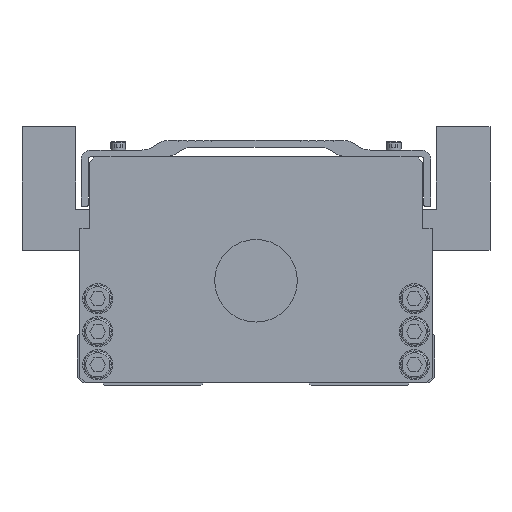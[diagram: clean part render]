
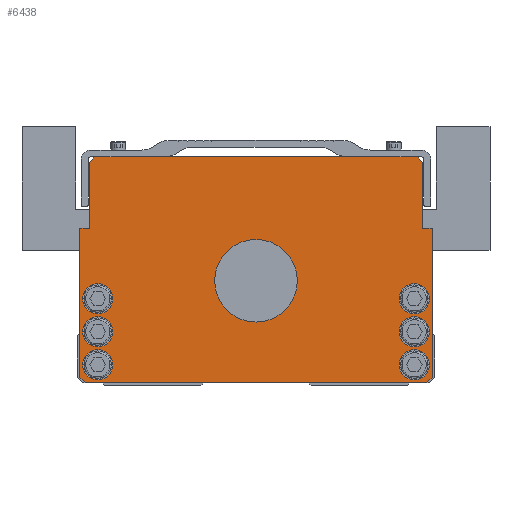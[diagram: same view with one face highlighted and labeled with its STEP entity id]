
A CAD part, front view. The second image highlights one B-rep face of the part: STEP entity #6438.
In plain terms, the highlighted planar face has unit normal (0, -1, 0).
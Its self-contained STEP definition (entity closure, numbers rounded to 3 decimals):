
#6342=VERTEX_POINT('',#18929);
#6352=EDGE_CURVE('',#18652,#12292,#18943,.T.);
#6438=ADVANCED_FACE('',(#19039,#19040,#19041,#19042,#19043,#19044,#19045,#19046),#19047,.T.);
#6466=VERTEX_POINT('',#19080);
#6550=EDGE_CURVE('',#10788,#17178,#19173,.T.);
#6776=EDGE_CURVE('',#6978,#9492,#19418,.T.);
#6978=VERTEX_POINT('',#19647);
#7292=EDGE_CURVE('',#13262,#15492,#19996,.T.);
#8096=EDGE_CURVE('',#18088,#14904,#20905,.T.);
#8110=EDGE_CURVE('',#15242,#11264,#20920,.T.);
#8536=EDGE_CURVE('',#6466,#15300,#21395,.T.);
#9076=VERTEX_POINT('',#22014);
#9446=EDGE_CURVE('',#17178,#11790,#22424,.T.);
#9492=VERTEX_POINT('',#22481);
#9618=EDGE_CURVE('',#11790,#18652,#22624,.T.);
#9684=VERTEX_POINT('',#22697);
#9744=EDGE_CURVE('',#13874,#10788,#22763,.T.);
#10228=EDGE_CURVE('',#6342,#17916,#23302,.T.);
#10788=VERTEX_POINT('',#23915);
#11184=VERTEX_POINT('',#24346);
#11222=EDGE_CURVE('',#9076,#12260,#24387,.T.);
#11264=VERTEX_POINT('',#24432);
#11352=VERTEX_POINT('',#24528);
#11790=VERTEX_POINT('',#25011);
#11862=VERTEX_POINT('',#25093);
#12024=EDGE_CURVE('',#16478,#11862,#25270,.T.);
#12114=EDGE_CURVE('',#17916,#6342,#25370,.T.);
#12260=VERTEX_POINT('',#25534);
#12292=VERTEX_POINT('',#25570);
#12310=EDGE_CURVE('',#9684,#15928,#25588,.T.);
#13262=VERTEX_POINT('',#26627);
#13682=EDGE_CURVE('',#15300,#6466,#27089,.T.);
#13874=VERTEX_POINT('',#27300);
#14548=EDGE_CURVE('',#15042,#11352,#28043,.T.);
#14762=EDGE_CURVE('',#11264,#15242,#28284,.T.);
#14904=VERTEX_POINT('',#28441);
#15042=VERTEX_POINT('',#28597);
#15242=VERTEX_POINT('',#28818);
#15300=VERTEX_POINT('',#28882);
#15454=EDGE_CURVE('',#15492,#13262,#29058,.T.);
#15492=VERTEX_POINT('',#29099);
#15928=VERTEX_POINT('',#29587);
#16304=EDGE_CURVE('',#14904,#18088,#30012,.T.);
#16356=EDGE_CURVE('',#18854,#6978,#30069,.T.);
#16478=VERTEX_POINT('',#30203);
#16632=EDGE_CURVE('',#11352,#15042,#30370,.T.);
#16850=EDGE_CURVE('',#11862,#9076,#30618,.T.);
#17178=VERTEX_POINT('',#30977);
#17498=EDGE_CURVE('',#15928,#9684,#31344,.T.);
#17788=EDGE_CURVE('',#9492,#16478,#31659,.T.);
#17916=VERTEX_POINT('',#31807);
#18088=VERTEX_POINT('',#32004);
#18482=EDGE_CURVE('',#12260,#11184,#32439,.T.);
#18652=VERTEX_POINT('',#32631);
#18782=EDGE_CURVE('',#12292,#18854,#32770,.T.);
#18784=EDGE_CURVE('',#11184,#13874,#32772,.T.);
#18854=VERTEX_POINT('',#32858);
#18929=CARTESIAN_POINT('',(-52.0,0.0,7.5));
#18943=LINE('',#32964,#32965);
#19039=FACE_BOUND('',#33098,.T.);
#19040=FACE_BOUND('',#33099,.T.);
#19041=FACE_BOUND('',#33100,.T.);
#19042=FACE_BOUND('',#33101,.T.);
#19043=FACE_BOUND('',#33102,.T.);
#19044=FACE_BOUND('',#33103,.T.);
#19045=FACE_BOUND('',#33104,.T.);
#19046=FACE_OUTER_BOUND('',#33105,.T.);
#19047=PLANE('',#33106);
#19080=CARTESIAN_POINT('',(-52.0,0.0,31.5));
#19173=LINE('',#33276,#33277);
#19418=LINE('',#33642,#33643);
#19647=CARTESIAN_POINT('',(60.5,0.0,57.0));
#19996=CIRCLE('',#34451,5.5);
#20905=CIRCLE('',#35723,5.5);
#20920=CIRCLE('',#35741,15.0);
#21395=CIRCLE('',#36374,5.5);
#22014=CARTESIAN_POINT('',(-62.0,0.0,1.0));
#22424=LINE('',#37792,#37793);
#22481=CARTESIAN_POINT('',(64.0,0.0,57.0));
#22624=LINE('',#38062,#38063);
#22697=CARTESIAN_POINT('',(-63.0,0.0,19.5));
#22763=LINE('',#38259,#38260);
#23302=CIRCLE('',#38996,5.5);
#23915=CARTESIAN_POINT('',(-60.5,0.0,81.0));
#24346=CARTESIAN_POINT('',(-64.0,0.0,57.0));
#24387=LINE('',#40531,#40532);
#24432=CARTESIAN_POINT('',(15.0,0.0,38.0));
#24528=CARTESIAN_POINT('',(52.0,0.0,19.5));
#25011=CARTESIAN_POINT('',(-33.25,0.0,83.0));
#25093=CARTESIAN_POINT('',(62.0,0.0,1.0));
#25270=LINE('',#41777,#41778);
#25370=CIRCLE('',#41912,5.5);
#25534=CARTESIAN_POINT('',(-64.0,0.0,3.0));
#25570=CARTESIAN_POINT('',(58.5,0.0,83.0));
#25588=CIRCLE('',#42215,5.5);
#26627=CARTESIAN_POINT('',(52.0,0.0,7.5));
#27089=CIRCLE('',#44319,5.5);
#27300=CARTESIAN_POINT('',(-60.5,0.0,57.0));
#28043=CIRCLE('',#45621,5.5);
#28284=CIRCLE('',#45952,15.0);
#28441=CARTESIAN_POINT('',(63.0,0.0,31.5));
#28597=CARTESIAN_POINT('',(63.0,0.0,19.5));
#28818=CARTESIAN_POINT('',(-15.0,0.0,38.0));
#28882=CARTESIAN_POINT('',(-63.0,0.0,31.5));
#29058=CIRCLE('',#47012,5.5);
#29099=CARTESIAN_POINT('',(63.0,0.0,7.5));
#29587=CARTESIAN_POINT('',(-52.0,0.0,19.5));
#30012=CIRCLE('',#48313,5.5);
#30069=LINE('',#48392,#48393);
#30203=CARTESIAN_POINT('',(64.0,0.0,3.0));
#30370=CIRCLE('',#48799,5.5);
#30618=LINE('',#49142,#49143);
#30977=CARTESIAN_POINT('',(-58.5,0.0,83.0));
#31344=CIRCLE('',#50148,5.5);
#31659=LINE('',#50595,#50596);
#31807=CARTESIAN_POINT('',(-63.0,0.0,7.5));
#32004=CARTESIAN_POINT('',(52.0,0.0,31.5));
#32439=LINE('',#51642,#51643);
#32631=CARTESIAN_POINT('',(33.25,0.0,83.0));
#32770=LINE('',#52101,#52102);
#32772=LINE('',#52105,#52106);
#32858=CARTESIAN_POINT('',(60.5,0.0,81.0));
#32964=CARTESIAN_POINT('',(58.5,0.0,83.0));
#32965=VECTOR('',#52316,1.0);
#33098=EDGE_LOOP('',(#52440,#52441));
#33099=EDGE_LOOP('',(#52442,#52443));
#33100=EDGE_LOOP('',(#52444,#52445));
#33101=EDGE_LOOP('',(#52446,#52447));
#33102=EDGE_LOOP('',(#52448,#52449));
#33103=EDGE_LOOP('',(#52450,#52451));
#33104=EDGE_LOOP('',(#52452,#52453));
#33105=EDGE_LOOP('',(#52454,#52455,#52456,#52457,#52458,#52459,#52460,#52461,#52462,#52463,#52464,#52465,#52466,#52467));
#33106=AXIS2_PLACEMENT_3D('',#52468,#52469,#52470);
#33276=CARTESIAN_POINT('',(-58.5,0.0,83.0));
#33277=VECTOR('',#52611,1.);
#33642=CARTESIAN_POINT('',(64.0,0.0,57.0));
#33643=VECTOR('',#52881,1.0);
#34451=AXIS2_PLACEMENT_3D('',#53553,#53554,#53555);
#35723=AXIS2_PLACEMENT_3D('',#54712,#54713,#54714);
#35741=AXIS2_PLACEMENT_3D('',#54729,#54730,#54731);
#36374=AXIS2_PLACEMENT_3D('',#55297,#55298,#55299);
#37792=CARTESIAN_POINT('',(58.5,0.0,83.0));
#37793=VECTOR('',#56503,1.0);
#38062=CARTESIAN_POINT('',(58.5,0.0,83.0));
#38063=VECTOR('',#56776,1.0);
#38259=CARTESIAN_POINT('',(-60.5,0.0,81.0));
#38260=VECTOR('',#56927,1.0);
#38996=AXIS2_PLACEMENT_3D('',#57526,#57527,#57528);
#40531=CARTESIAN_POINT('',(-64.0,0.0,3.0));
#40532=VECTOR('',#58657,1.);
#41777=CARTESIAN_POINT('',(62.0,0.0,1.0));
#41778=VECTOR('',#59599,1.);
#41912=AXIS2_PLACEMENT_3D('',#59705,#59706,#59707);
#42215=AXIS2_PLACEMENT_3D('',#59956,#59957,#59958);
#44319=AXIS2_PLACEMENT_3D('',#61556,#61557,#61558);
#45621=AXIS2_PLACEMENT_3D('',#62554,#62555,#62556);
#45952=AXIS2_PLACEMENT_3D('',#62865,#62866,#62867);
#47012=AXIS2_PLACEMENT_3D('',#63742,#63743,#63744);
#48313=AXIS2_PLACEMENT_3D('',#64915,#64916,#64917);
#48392=CARTESIAN_POINT('',(60.5,0.0,57.0));
#48393=VECTOR('',#64979,1.0);
#48799=AXIS2_PLACEMENT_3D('',#65322,#65323,#65324);
#49142=CARTESIAN_POINT('',(-62.0,0.0,1.0));
#49143=VECTOR('',#65652,1.0);
#50148=AXIS2_PLACEMENT_3D('',#66483,#66484,#66485);
#50595=CARTESIAN_POINT('',(64.0,0.0,3.0));
#50596=VECTOR('',#66808,1.0);
#51642=CARTESIAN_POINT('',(-64.0,0.0,57.0));
#51643=VECTOR('',#67761,1.0);
#52101=CARTESIAN_POINT('',(60.5,0.0,81.0));
#52102=VECTOR('',#68138,1.);
#52105=CARTESIAN_POINT('',(-60.5,0.0,57.0));
#52106=VECTOR('',#68139,1.0);
#52316=DIRECTION('',(1.0,0.0,0.0));
#52440=ORIENTED_EDGE('',*,*,#14762,.T.);
#52441=ORIENTED_EDGE('',*,*,#8110,.T.);
#52442=ORIENTED_EDGE('',*,*,#16304,.T.);
#52443=ORIENTED_EDGE('',*,*,#8096,.T.);
#52444=ORIENTED_EDGE('',*,*,#14548,.T.);
#52445=ORIENTED_EDGE('',*,*,#16632,.T.);
#52446=ORIENTED_EDGE('',*,*,#15454,.T.);
#52447=ORIENTED_EDGE('',*,*,#7292,.T.);
#52448=ORIENTED_EDGE('',*,*,#8536,.T.);
#52449=ORIENTED_EDGE('',*,*,#13682,.T.);
#52450=ORIENTED_EDGE('',*,*,#17498,.T.);
#52451=ORIENTED_EDGE('',*,*,#12310,.T.);
#52452=ORIENTED_EDGE('',*,*,#10228,.T.);
#52453=ORIENTED_EDGE('',*,*,#12114,.T.);
#52454=ORIENTED_EDGE('',*,*,#11222,.F.);
#52455=ORIENTED_EDGE('',*,*,#16850,.F.);
#52456=ORIENTED_EDGE('',*,*,#12024,.F.);
#52457=ORIENTED_EDGE('',*,*,#17788,.F.);
#52458=ORIENTED_EDGE('',*,*,#6776,.F.);
#52459=ORIENTED_EDGE('',*,*,#16356,.F.);
#52460=ORIENTED_EDGE('',*,*,#18782,.F.);
#52461=ORIENTED_EDGE('',*,*,#6352,.F.);
#52462=ORIENTED_EDGE('',*,*,#9618,.F.);
#52463=ORIENTED_EDGE('',*,*,#9446,.F.);
#52464=ORIENTED_EDGE('',*,*,#6550,.F.);
#52465=ORIENTED_EDGE('',*,*,#9744,.F.);
#52466=ORIENTED_EDGE('',*,*,#18784,.F.);
#52467=ORIENTED_EDGE('',*,*,#18482,.F.);
#52468=CARTESIAN_POINT('',(0.,0.0,41.562));
#52469=DIRECTION('',(0.0,-1.0,0.0));
#52470=DIRECTION('',(1.0,0.0,0.0));
#52611=DIRECTION('',(0.707,0.0,0.707));
#52881=DIRECTION('',(1.0,0.0,0.0));
#53553=CARTESIAN_POINT('',(57.5,0.0,7.5));
#53554=DIRECTION('',(-0.0,1.0,0.0));
#53555=DIRECTION('',(1.0,0.0,0.0));
#54712=CARTESIAN_POINT('',(57.5,0.0,31.5));
#54713=DIRECTION('',(-0.0,1.0,0.0));
#54714=DIRECTION('',(1.0,0.0,0.0));
#54729=CARTESIAN_POINT('',(0.0,0.0,38.0));
#54730=DIRECTION('',(-0.0,1.0,0.0));
#54731=DIRECTION('',(1.0,0.0,0.0));
#55297=CARTESIAN_POINT('',(-57.5,0.0,31.5));
#55298=DIRECTION('',(-0.0,1.0,0.0));
#55299=DIRECTION('',(1.0,0.0,0.0));
#56503=DIRECTION('',(1.0,0.0,0.0));
#56776=DIRECTION('',(1.0,0.0,0.0));
#56927=DIRECTION('',(0.0,0.0,1.0));
#57526=CARTESIAN_POINT('',(-57.5,0.0,7.5));
#57527=DIRECTION('',(-0.0,1.0,0.0));
#57528=DIRECTION('',(1.0,0.0,0.0));
#58657=DIRECTION('',(-0.707,0.0,0.707));
#59599=DIRECTION('',(-0.707,0.0,-0.707));
#59705=CARTESIAN_POINT('',(-57.5,0.0,7.5));
#59706=DIRECTION('',(-0.0,1.0,0.0));
#59707=DIRECTION('',(1.0,0.0,0.0));
#59956=CARTESIAN_POINT('',(-57.5,0.0,19.5));
#59957=DIRECTION('',(-0.0,1.0,0.0));
#59958=DIRECTION('',(1.0,0.0,0.0));
#61556=CARTESIAN_POINT('',(-57.5,0.0,31.5));
#61557=DIRECTION('',(-0.0,1.0,0.0));
#61558=DIRECTION('',(1.0,0.0,0.0));
#62554=CARTESIAN_POINT('',(57.5,0.0,19.5));
#62555=DIRECTION('',(-0.0,1.0,0.0));
#62556=DIRECTION('',(1.0,0.0,0.0));
#62865=CARTESIAN_POINT('',(0.0,0.0,38.0));
#62866=DIRECTION('',(-0.0,1.0,0.0));
#62867=DIRECTION('',(1.0,0.0,0.0));
#63742=CARTESIAN_POINT('',(57.5,0.0,7.5));
#63743=DIRECTION('',(-0.0,1.0,0.0));
#63744=DIRECTION('',(1.0,0.0,0.0));
#64915=CARTESIAN_POINT('',(57.5,0.0,31.5));
#64916=DIRECTION('',(-0.0,1.0,0.0));
#64917=DIRECTION('',(1.0,0.0,0.0));
#64979=DIRECTION('',(-0.0,0.0,-1.0));
#65322=CARTESIAN_POINT('',(57.5,0.0,19.5));
#65323=DIRECTION('',(-0.0,1.0,0.0));
#65324=DIRECTION('',(1.0,0.0,0.0));
#65652=DIRECTION('',(-1.0,0.0,-0.0));
#66483=CARTESIAN_POINT('',(-57.5,0.0,19.5));
#66484=DIRECTION('',(-0.0,1.0,0.0));
#66485=DIRECTION('',(1.0,0.0,0.0));
#66808=DIRECTION('',(-0.0,0.0,-1.0));
#67761=DIRECTION('',(0.0,0.0,1.0));
#68138=DIRECTION('',(0.707,0.0,-0.707));
#68139=DIRECTION('',(1.0,0.0,0.0));
